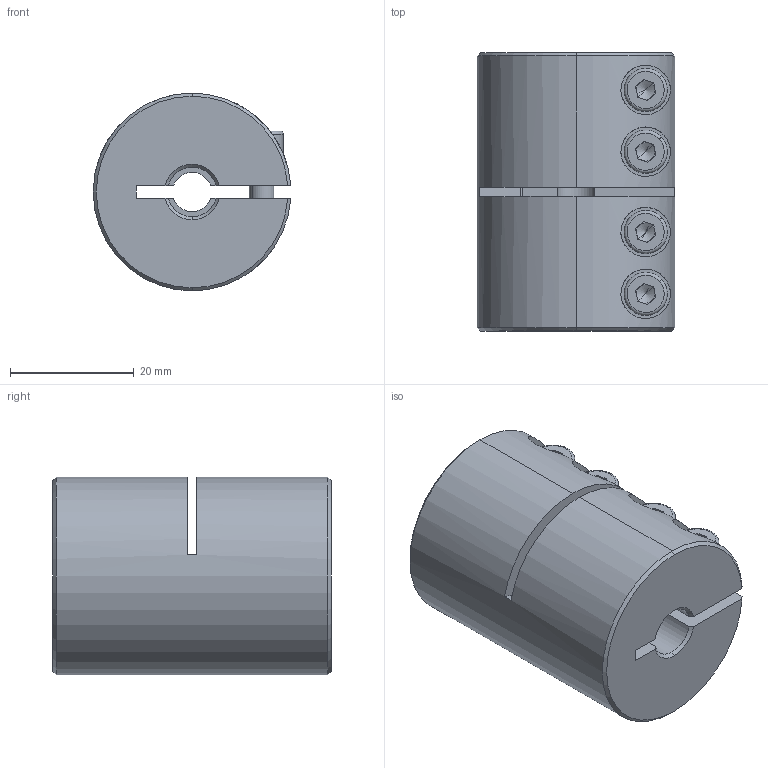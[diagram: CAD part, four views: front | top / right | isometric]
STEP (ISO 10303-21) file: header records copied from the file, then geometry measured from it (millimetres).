
FILE_DESCRIPTION (( 'STEP AP214' ), '1' );
FILE_NAME ('LL-B-D32L45-6.35-8½¨Ä£.STEP', '2022-07-21T06:46:42', ( '' ), ( '' ), 'SwSTEP 2.0', 'SolidWorks 2022', '' );
FILE_SCHEMA (( 'AUTOMOTIVE_DESIGN' ));
Length unit declared in the file: millimetre
Products named in the file (1): LL-B-D32L45-6.35-8膘耀
Bounding box: 31.97 x 45 x 32 mm (x, y, z)
Volume: 31512 mm3; surface area: 10732.2 mm2
Topology: 1 solids, 1 shells, 193 faces, 492 edges, 309 vertices
Faces by surface type: plane 88, cylinder 77, cone 20, torus 8
Entity records: 6357 total; most frequent: CARTESIAN_POINT 1583, DIRECTION 1037, ORIENTED_EDGE 968, EDGE_CURVE 484, AXIS2_PLACEMENT_3D 403, VERTEX_POINT 309, LINE 231, VECTOR 231
